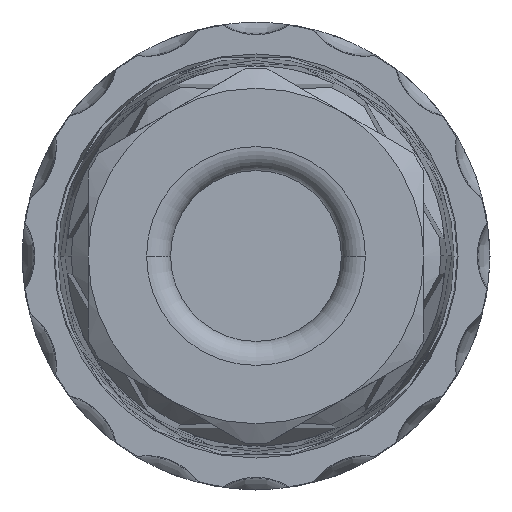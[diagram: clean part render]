
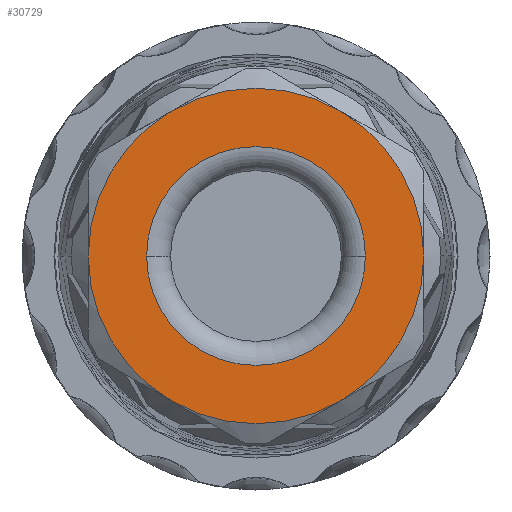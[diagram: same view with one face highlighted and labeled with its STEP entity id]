
A CAD part, front view. The second image highlights one B-rep face of the part: STEP entity #30729.
In plain terms, the highlighted planar face has unit normal (0, -1, 0).
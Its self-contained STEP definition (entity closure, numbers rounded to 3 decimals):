
#29069=CARTESIAN_POINT('',(0.,-70.2,0.));
#29070=DIRECTION('',(0.,1.,0.));
#29071=DIRECTION('',(1.,0.,0.));
#29072=AXIS2_PLACEMENT_3D('',#29069,#29070,#29071);
#29074=CARTESIAN_POINT('',(0.,-70.2,0.));
#29075=DIRECTION('',(0.,1.,0.));
#29076=DIRECTION('',(0.5,0.,-0.866));
#29077=AXIS2_PLACEMENT_3D('',#29074,#29075,#29076);
#29079=CARTESIAN_POINT('',(0.,-70.2,0.));
#29080=DIRECTION('',(0.,1.,0.));
#29081=DIRECTION('',(-0.5,0.,-0.866));
#29082=AXIS2_PLACEMENT_3D('',#29079,#29080,#29081);
#29084=CARTESIAN_POINT('',(0.,-70.2,0.));
#29085=DIRECTION('',(0.,1.,0.));
#29086=DIRECTION('',(-1.,0.,0.));
#29087=AXIS2_PLACEMENT_3D('',#29084,#29085,#29086);
#29089=CARTESIAN_POINT('',(0.,-70.2,0.));
#29090=DIRECTION('',(0.,1.,0.));
#29091=DIRECTION('',(-0.5,0.,0.866));
#29092=AXIS2_PLACEMENT_3D('',#29089,#29090,#29091);
#29094=CARTESIAN_POINT('',(0.,-70.2,0.));
#29095=DIRECTION('',(0.,1.,0.));
#29096=DIRECTION('',(0.5,0.,0.866));
#29097=AXIS2_PLACEMENT_3D('',#29094,#29095,#29096);
#29099=CARTESIAN_POINT('',(0.,-70.2,0.));
#29100=DIRECTION('',(0.,-1.,0.));
#29101=DIRECTION('',(-1.,0.,0.));
#29102=AXIS2_PLACEMENT_3D('',#29099,#29100,#29101);
#29104=CARTESIAN_POINT('',(0.,-70.2,0.));
#29105=DIRECTION('',(0.,-1.,0.));
#29106=DIRECTION('',(1.,0.,0.));
#29107=AXIS2_PLACEMENT_3D('',#29104,#29105,#29106);
#30508=CARTESIAN_POINT('',(6.85,-70.2,0.));
#30509=VERTEX_POINT('',#30508);
#30510=CARTESIAN_POINT('',(-6.85,-70.2,0.));
#30511=VERTEX_POINT('',#30510);
#30512=CARTESIAN_POINT('',(10.5,-70.2,0.));
#30513=CARTESIAN_POINT('',(5.25,-70.2,-9.093));
#30514=VERTEX_POINT('',#30512);
#30515=VERTEX_POINT('',#30513);
#30516=CARTESIAN_POINT('',(-5.25,-70.2,-9.093));
#30517=VERTEX_POINT('',#30516);
#30518=CARTESIAN_POINT('',(-10.5,-70.2,0.));
#30519=VERTEX_POINT('',#30518);
#30520=CARTESIAN_POINT('',(-5.25,-70.2,9.093));
#30521=VERTEX_POINT('',#30520);
#30522=CARTESIAN_POINT('',(5.25,-70.2,9.093));
#30523=VERTEX_POINT('',#30522);
#30706=CARTESIAN_POINT('',(0.,-70.2,0.));
#30707=DIRECTION('',(0.,1.,0.));
#30708=DIRECTION('',(-1.,0.,0.));
#30709=AXIS2_PLACEMENT_3D('',#30706,#30707,#30708);
#30710=PLANE('',#30709);
#30712=ORIENTED_EDGE('',*,*,#30711,.T.);
#30714=ORIENTED_EDGE('',*,*,#30713,.T.);
#30716=ORIENTED_EDGE('',*,*,#30715,.T.);
#30718=ORIENTED_EDGE('',*,*,#30717,.T.);
#30720=ORIENTED_EDGE('',*,*,#30719,.T.);
#30722=ORIENTED_EDGE('',*,*,#30721,.T.);
#30723=EDGE_LOOP('',(#30712,#30714,#30716,#30718,#30720,#30722));
#30724=FACE_OUTER_BOUND('',#30723,.F.);
#30725=ORIENTED_EDGE('',*,*,#30699,.T.);
#30726=ORIENTED_EDGE('',*,*,#30688,.T.);
#30727=EDGE_LOOP('',(#30725,#30726));
#30728=FACE_BOUND('',#30727,.F.);
#29073=CIRCLE('',#29072,10.5);
#29078=CIRCLE('',#29077,10.5);
#29083=CIRCLE('',#29082,10.5);
#29088=CIRCLE('',#29087,10.5);
#29093=CIRCLE('',#29092,10.5);
#29098=CIRCLE('',#29097,10.5);
#29103=CIRCLE('',#29102,6.85);
#29108=CIRCLE('',#29107,6.85);
#30688=EDGE_CURVE('',#30509,#30511,#29108,.T.);
#30699=EDGE_CURVE('',#30511,#30509,#29103,.T.);
#30711=EDGE_CURVE('',#30514,#30515,#29073,.T.);
#30713=EDGE_CURVE('',#30515,#30517,#29078,.T.);
#30715=EDGE_CURVE('',#30517,#30519,#29083,.T.);
#30717=EDGE_CURVE('',#30519,#30521,#29088,.T.);
#30719=EDGE_CURVE('',#30521,#30523,#29093,.T.);
#30721=EDGE_CURVE('',#30523,#30514,#29098,.T.);
#30729=ADVANCED_FACE('',(#30724,#30728),#30710,.F.);
